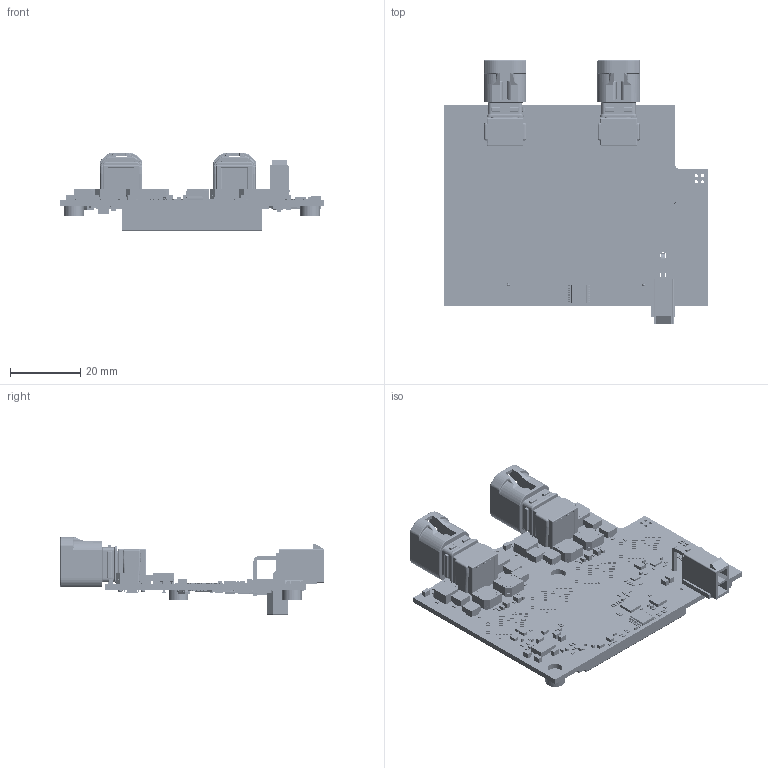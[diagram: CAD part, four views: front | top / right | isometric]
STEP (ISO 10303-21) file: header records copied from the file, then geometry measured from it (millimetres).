
FILE_DESCRIPTION(('Open CASCADE Model'),'2;1');
FILE_NAME('Open CASCADE Shape Model','2025-10-14T09:50:57',('Author'),( 'Open CASCADE'),'Open CASCADE STEP processor 7.5','Open CASCADE 7.5' ,'Unknown');
FILE_SCHEMA(('AUTOMOTIVE_DESIGN { 1 0 10303 214 1 1 1 1 }'));
Length unit declared in the file: millimetre
Products named in the file (632): PCB; Board; Open CASCADE STEP translator 7.5 1.1.1; R118; 10735345344; Extruded; 10735345184; R108; R99; 12722564080; 12722564240; R73; U20; 12722573600; U19; R90; 10735346304; 10735346544; C56; 10735341584; 10735341424; U18; 12743170848; R89; R88; R87; R74; R61; D7; 12722570320; C55; C47; 12722567440; 12722567280; C38; C36; J1; TE_4xcoax_c-2304168-9-b-3d; R59; D6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
Assembly tree (1913 placements, depth 5):
  PCB
    Board
      Open CASCADE STEP translator 7.5 1.1.1
    R118
      10735345344
        Extruded
      10735345184  x2
        Extruded
    R108
      10735345344
        Extruded
      10735345184  x2
        Extruded
    R99
      12722564080
        Extruded
      12722564240  x2
        Extruded
    R73
      12722564080
        Extruded
      12722564240  x2
        Extruded
    U20
      12722573600
        Extruded
    U19
      12722573600
        Extruded
    R90
      10735346304
        Extruded
      10735346544  x2
        Extruded
    C56
      10735341584  x2
        Extruded
      10735341424
        Extruded
    U18
      12743170848
        Extruded
    R89
      10735346304
        Extruded
      10735346544  x2
        Extruded
    R88
      10735345344
        Extruded
      10735345184  x2
        Extruded
    R87
      10735345344
        Extruded
      10735345184  x2
        Extruded
    R74
      10735346304
        Extruded
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Bounding box: 75 x 74.74 x 22.35 mm (x, y, z)
Volume: 14392.2 mm3; surface area: 24532.3 mm2
Topology: 1430 solids, 1444 shells, 17953 faces, 44068 edges, 30977 vertices
Faces by surface type: plane 15627, cylinder 1700, bspline 228, torus 212, sphere 118, cone 68
Full cylindrical faces by diameter (mm): 0.225 x1, 0.375 x1, 0.512 x2, 0.65 x8, 0.888 x4, 0.889 x2, 1.02 x2, 1.5 x8, 1.8 x2, 4.22 x3, 5.56 x3
Entity records: 228720 total; most frequent: CARTESIAN_POINT 45364, DIRECTION 31580, ORIENTED_EDGE 28544, EDGE_CURVE 14273, LINE 12942, VECTOR 12942, AXIS2_PLACEMENT_3D 9319, VERTEX_POINT 9167
